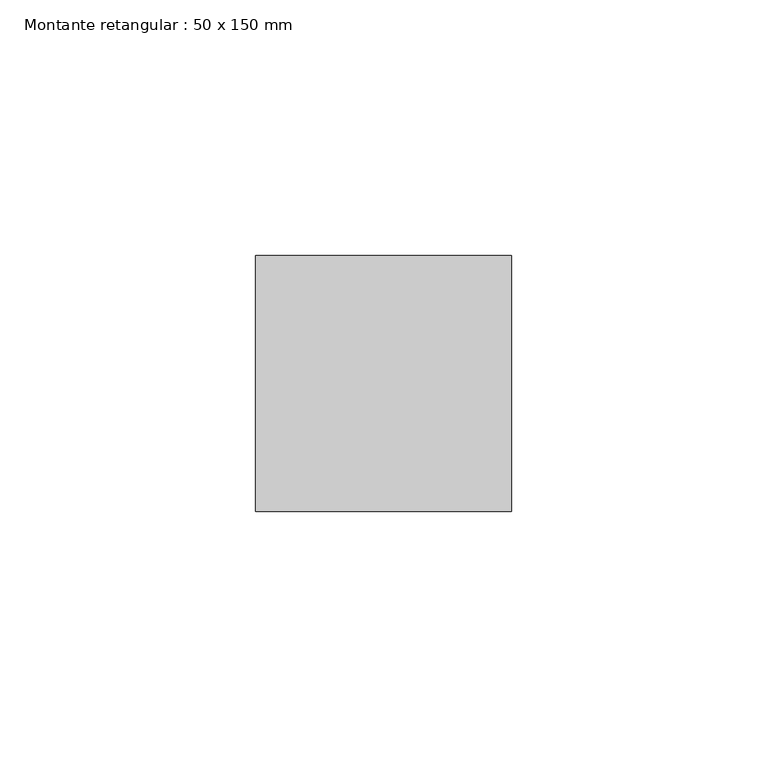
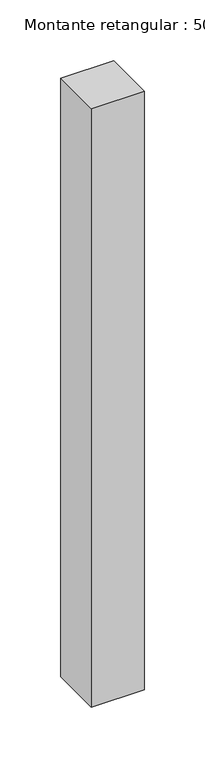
"""IFC4 building model written with IfcOpenShell, lengths in millimetres: member geometry, Montante retangular : 50 x 150 mm."""

import ifcopenshell
import ifcopenshell.guid

model = None  # the IFC model being written
_history = None  # IfcOwnerHistory: only IFC2X3 demands one
_inside = {}  # id of a spatial element -> (the spatial element, [elements in it])
_under = {}  # id of a project, library or spatial element -> (it, [spatial elements below it])
_declared = {}  # id of a project -> (the project, [libraries it declares])
_typed = {}  # id of a type object -> (the type object, [elements of that type])
_made_of = {}  # id of a material, layer set ... -> (it, [elements and type objects made of it])


def new_model(schema):
    """Start an empty IFC model of exactly this schema.

    Asked for "IFC4X3", IfcOpenShell would pick the latest addendum, in which some entities
    have other attributes; the version numbers below select the first issue.
    IFC2X3 requires an IfcOwnerHistory on every rooted entity: one is made here for all.
    """
    global model, _history
    if schema == "IFC4X3":
        model = ifcopenshell.file(schema_version=(4, 3, 0, 0))
    else:
        model = ifcopenshell.file(schema=schema)
    _inside.clear()
    _under.clear()
    _declared.clear()
    _typed.clear()
    _made_of.clear()
    _history = None
    if model.schema == "IFC2X3":
        org = make("IfcOrganization", Name="unknown")
        user = make(
            "IfcPersonAndOrganization",
            ThePerson=make("IfcPerson", FamilyName="unknown"),
            TheOrganization=org,
        )
        app = make(
            "IfcApplication",
            ApplicationDeveloper=org,
            Version="unknown",
            ApplicationFullName="unknown",
            ApplicationIdentifier="unknown",
        )
        _history = make(
            "IfcOwnerHistory",
            OwningUser=user,
            OwningApplication=app,
            ChangeAction="ADDED",
            CreationDate=0,
        )
    return model


def make(cls, **values):
    """One entity of the class cls with the attributes given. An attribute that is None is left unset."""
    return model.create_entity(
        cls, **{name: value for name, value in values.items() if value is not None}
    )


def rooted(cls, **values):
    """An entity with a GlobalId (a new one), such as an element, a storey or a relation."""
    return make(cls, GlobalId=ifcopenshell.guid.new(), OwnerHistory=_history, **values)


def si_unit(unit_type, name, prefix=None):
    """IfcSIUnit, for example si_unit("LENGTHUNIT", "METRE", prefix="MILLI")."""
    return make("IfcSIUnit", UnitType=unit_type, Prefix=prefix, Name=name)


def assignment(units):
    """IfcUnitAssignment: the units of a project."""
    return None if units is None else make("IfcUnitAssignment", Units=units)


def point(xyz):
    """IfcCartesianPoint."""
    return None if xyz is None else make("IfcCartesianPoint", Coordinates=xyz)


def direction(xyz):
    """IfcDirection."""
    return None if xyz is None else make("IfcDirection", DirectionRatios=xyz)


def frame(location, z_axis=None, x_axis=None):
    """IfcAxis2Placement3D, a coordinate frame: its origin and axes. An axis left out is left unset."""
    return make(
        "IfcAxis2Placement3D",
        Location=point(location),
        Axis=direction(z_axis),
        RefDirection=direction(x_axis),
    )


def origin():
    """The frame at (0, 0, 0) with its axes left unset."""
    return frame((0.0, 0.0, 0.0))


def place(relative_to, where):
    """IfcLocalPlacement: puts the frame where relative to a parent placement (None: the world)."""
    return make(
        "IfcLocalPlacement", PlacementRelTo=relative_to, RelativePlacement=where
    )


def context(
    kind, dimensions, precision=None, world=None, true_north=None, identifier=None
):
    """IfcGeometricRepresentationContext, for example the 3D "Model" context."""
    return make(
        "IfcGeometricRepresentationContext",
        ContextIdentifier=identifier,
        ContextType=kind,
        CoordinateSpaceDimension=dimensions,
        Precision=precision,
        WorldCoordinateSystem=world,
        TrueNorth=true_north,
    )


def project(units=None, contexts=None):
    """IfcProject with its units and contexts."""
    return rooted(
        "IfcProject",
        Name="project",
        RepresentationContexts=contexts,
        UnitsInContext=assignment(units),
    )


def spatial(cls, under=None, at=None, **own):
    """A site, building, storey or space (cls), placed at a placement, below another one or the project."""
    s = rooted(cls, ObjectPlacement=at, **own)
    if under is not None:
        _under.setdefault(under.id(), (under, []))[1].append(s)
    return s


def polyline(points):
    """IfcPolyline through the points."""
    return make("IfcPolyline", Points=[point(p) for p in points])


def outline(outer, holes=None, kind="AREA"):
    """IfcArbitraryClosedProfileDef: a profile drawn as a closed curve; with holes, ...WithVoids."""
    if holes is None:
        return make("IfcArbitraryClosedProfileDef", ProfileType=kind, OuterCurve=outer)
    return make(
        "IfcArbitraryProfileDefWithVoids",
        ProfileType=kind,
        OuterCurve=outer,
        InnerCurves=holes,
    )


def extrude(swept, where, along, depth):
    """IfcExtrudedAreaSolid: the profile swept, set in the frame where, extruded along a direction by depth."""
    return make(
        "IfcExtrudedAreaSolid",
        SweptArea=swept,
        Position=where,
        ExtrudedDirection=direction(along),
        Depth=depth,
    )


def shape(context_of_items, identifier, shape_type, items):
    """IfcShapeRepresentation: the items that make up one representation, for example the "Body"."""
    return make(
        "IfcShapeRepresentation",
        ContextOfItems=context_of_items,
        RepresentationIdentifier=identifier,
        RepresentationType=shape_type,
        Items=items,
    )


def source(mapping_origin, context_of_items, identifier, shape_type, items):
    """IfcRepresentationMap: a shape defined once, which mapped items show again and again."""
    return make(
        "IfcRepresentationMap",
        MappingOrigin=mapping_origin,
        MappedRepresentation=shape(context_of_items, identifier, shape_type, items),
    )


def transform(
    local_origin,
    x_axis=None,
    y_axis=None,
    z_axis=None,
    scale=None,
    scale2=None,
    scale3=None,
    uniform=True,
):
    """IfcCartesianTransformationOperator3D, or its non-uniform kind. x_axis, y_axis, z_axis: its Axis1, 2, 3."""
    if uniform:
        return make(
            "IfcCartesianTransformationOperator3D",
            Axis1=direction(x_axis),
            Axis2=direction(y_axis),
            LocalOrigin=point(local_origin),
            Scale=scale,
            Axis3=direction(z_axis),
        )
    return make(
        "IfcCartesianTransformationOperator3DnonUniform",
        Axis1=direction(x_axis),
        Axis2=direction(y_axis),
        LocalOrigin=point(local_origin),
        Scale=scale,
        Axis3=direction(z_axis),
        Scale2=scale2,
        Scale3=scale3,
    )


def mapped(mapping_source, mapping_target):
    """IfcMappedItem: shows the shape of a source again, moved by a transform."""
    return make(
        "IfcMappedItem", MappingSource=mapping_source, MappingTarget=mapping_target
    )


def made_of(thing, what):
    """Note that an element or type object is made of a material, layer set ...; save() writes the relation."""
    if what is not None:
        _made_of.setdefault(what.id(), (what, []))[1].append(thing)
    return thing


def element(
    cls,
    number,
    at=None,
    inside=None,
    cuts=None,
    type_object=None,
    material=None,
    context=None,
    identifier="Body",
    shape_type=None,
    held_by="IfcProductDefinitionShape",
    body=None,
    shapes=None,
    **own,
):
    """One element of the class cls, such as IfcWall. Its Tag is "e" and its number.

    at: its placement. inside: the storey or other place that contains it. cuts: it is an
    opening in that element (IfcRelVoidsElement). A single representation is given by context,
    identifier, shape_type and body (its items); several are given by shapes. held_by: the class
    of the entity that holds the representations. save() writes the other relations.
    """
    e = rooted(cls, Tag="e%d" % number, ObjectPlacement=at, **own)
    if body is not None:
        shapes = [shape(context, identifier, shape_type, body)]
    if shapes is not None:
        e.Representation = make(held_by, Representations=shapes)
    if inside is not None:
        _inside.setdefault(inside.id(), (inside, []))[1].append(e)
    if cuts is not None:
        rooted(
            "IfcRelVoidsElement", RelatingBuildingElement=cuts, RelatedOpeningElement=e
        )
    if type_object is not None:
        _typed.setdefault(type_object.id(), (type_object, []))[1].append(e)
    return made_of(e, material)


def aggregate(whole, parts):
    """IfcRelAggregates: a whole, such as a stair, and the parts it consists of."""
    return rooted("IfcRelAggregates", RelatingObject=whole, RelatedObjects=parts)


def save(model, path):
    """Write the relations noted so far, then the file.

    IfcRelAggregates (storeys below a building ...), IfcRelContainedInSpatialStructure (elements
    in a storey), IfcRelDefinesByType, IfcRelAssociatesMaterial and IfcRelDeclares: one each for
    every whole, place, type object, material and project.
    """
    for whole, parts in _under.values():
        aggregate(whole, parts)
    for where, things in _inside.values():
        rooted(
            "IfcRelContainedInSpatialStructure",
            RelatedElements=things,
            RelatingStructure=where,
        )
    for kind, things in _typed.values():
        rooted("IfcRelDefinesByType", RelatedObjects=things, RelatingType=kind)
    for what, things in _made_of.values():
        rooted("IfcRelAssociatesMaterial", RelatedObjects=things, RelatingMaterial=what)
    for by, libraries in _declared.values():
        rooted("IfcRelDeclares", RelatingContext=by, RelatedDefinitions=libraries)
    model.write(path)


def montante_retangular_50_x_150_mm_246f8aa1(model_context):
    return source(origin(), model_context, "Body", "SweptSolid", [
        extrude(outline(polyline([(25.0, 25.0), (25.0, -25.0), (-25.0, -25.0), (-25.0, 25.0), (25.0, 25.0)])), frame((0.0, 0.0, -600.0), z_axis=(0.0, 0.0, 1.0), x_axis=(1.0, 0.0, 0.0)), (0.0, 0.0, 1.0), 600.0),
    ])


if __name__ == "__main__":
    model = new_model("IFC4")
    model_context = context("Model", 3, world=origin())
    ifc_project = project(units=[si_unit("LENGTHUNIT", "METRE", prefix="MILLI")], contexts=[model_context])
    site = spatial("IfcSite", under=ifc_project)
    building = spatial("IfcBuilding", under=site)
    placement = place(None, origin())
    montante_retangular_50_x_150_mm_shape = montante_retangular_50_x_150_mm_246f8aa1(model_context)
    element("IfcMember", 1, ObjectType="Montante retangular : 50 x 150 mm", at=placement, inside=building, context=model_context, shape_type="MappedRepresentation", body=[
        mapped(montante_retangular_50_x_150_mm_shape, transform((0.0, 0.0, 0.0), x_axis=(1.0, 0.0, 0.0), y_axis=(0.0, 1.0, 0.0), z_axis=(0.0, 0.0, 1.0))),
    ])
    save(model, "model.ifc")
